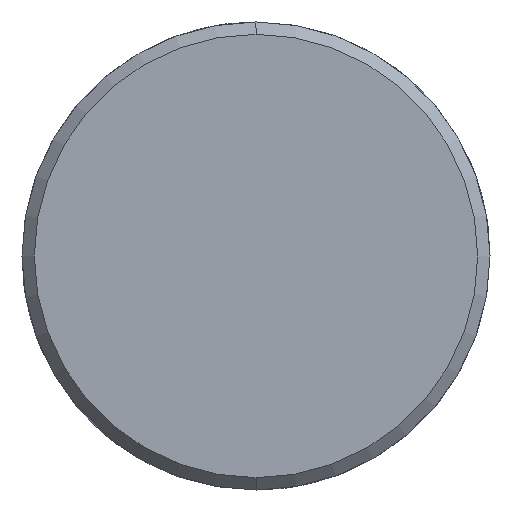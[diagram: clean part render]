
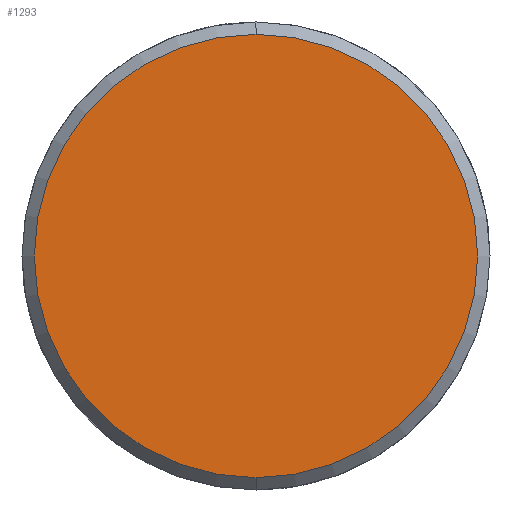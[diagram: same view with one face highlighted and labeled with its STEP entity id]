
A CAD part, left-side view. The second image highlights one B-rep face of the part: STEP entity #1293.
In plain terms, the highlighted planar face has unit normal (-1, 0, 0).
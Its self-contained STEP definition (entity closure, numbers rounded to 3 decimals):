
#1225=CARTESIAN_POINT('Vertex',(-7.,0.,-18.)) ;
#1228=CARTESIAN_POINT('Axis2P3D Location',(-7.,0.,0.)) ;
#1232=CARTESIAN_POINT('Vertex',(-7.,18.,0.)) ;
#1235=CARTESIAN_POINT('Axis2P3D Location',(-7.,0.,0.)) ;
#1239=CARTESIAN_POINT('Vertex',(-7.,0.,18.)) ;
#1261=CARTESIAN_POINT('Axis2P3D Location',(-7.,0.,0.)) ;
#1265=CARTESIAN_POINT('Vertex',(-7.,-18.,0.)) ;
#1268=CARTESIAN_POINT('Axis2P3D Location',(-7.,0.,0.)) ;
#1282=CARTESIAN_POINT('Axis2P3D Location',(-7.,0.,0.)) ;
#1229=DIRECTION('Axis2P3D Direction',(1.,0.,-0.)) ;
#1236=DIRECTION('Axis2P3D Direction',(1.,0.,-0.)) ;
#1262=DIRECTION('Axis2P3D Direction',(1.,0.,-0.)) ;
#1269=DIRECTION('Axis2P3D Direction',(1.,0.,-0.)) ;
#1283=DIRECTION('Axis2P3D Direction',(1.,0.,-0.)) ;
#1284=DIRECTION('Axis2P3D XDirection',(-0.,0.,-1.)) ;
#1230=AXIS2_PLACEMENT_3D('Circle Axis2P3D',#1228,#1229,$) ;
#1237=AXIS2_PLACEMENT_3D('Circle Axis2P3D',#1235,#1236,$) ;
#1263=AXIS2_PLACEMENT_3D('Circle Axis2P3D',#1261,#1262,$) ;
#1270=AXIS2_PLACEMENT_3D('Circle Axis2P3D',#1268,#1269,$) ;
#1285=AXIS2_PLACEMENT_3D('Plane Axis2P3D',#1282,#1283,#1284) ;
#1288=ORIENTED_EDGE('',*,*,#1234,.F.) ;
#1289=ORIENTED_EDGE('',*,*,#1272,.F.) ;
#1290=ORIENTED_EDGE('',*,*,#1267,.F.) ;
#1291=ORIENTED_EDGE('',*,*,#1241,.F.) ;
#1293=ADVANCED_FACE('351-25X56X120',(#1292),#1286,.F.) ;
#1231=CIRCLE('generated circle',#1230,18.) ;
#1238=CIRCLE('generated circle',#1237,18.) ;
#1264=CIRCLE('generated circle',#1263,18.) ;
#1271=CIRCLE('generated circle',#1270,18.) ;
#1234=EDGE_CURVE('',#1226,#1233,#1231,.T.) ;
#1241=EDGE_CURVE('',#1233,#1240,#1238,.T.) ;
#1267=EDGE_CURVE('',#1240,#1266,#1264,.T.) ;
#1272=EDGE_CURVE('',#1266,#1226,#1271,.T.) ;
#1287=EDGE_LOOP('',(#1288,#1289,#1290,#1291)) ;
#1292=FACE_OUTER_BOUND('',#1287,.T.) ;
#1286=PLANE('Plane',#1285) ;
#1226=VERTEX_POINT('',#1225) ;
#1233=VERTEX_POINT('',#1232) ;
#1240=VERTEX_POINT('',#1239) ;
#1266=VERTEX_POINT('',#1265) ;
